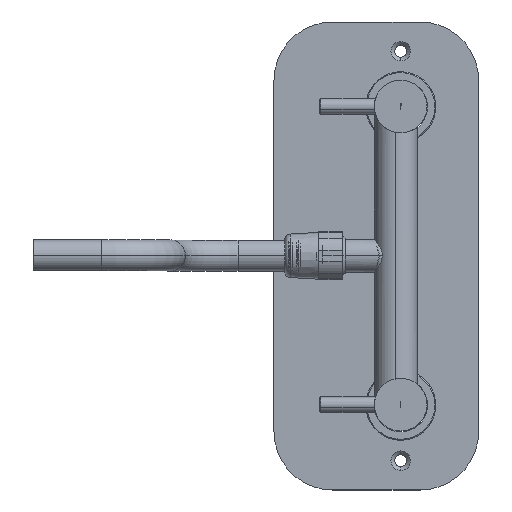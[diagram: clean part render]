
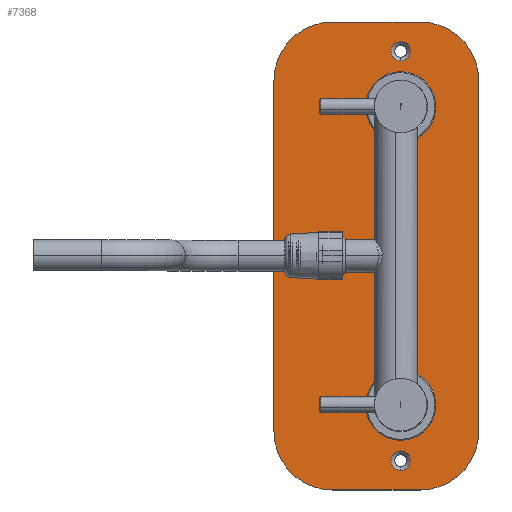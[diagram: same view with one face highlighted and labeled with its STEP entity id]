
A CAD part, top view. The second image highlights one B-rep face of the part: STEP entity #7368.
In plain terms, the highlighted planar face has unit normal (0, 0, 1) as drawn and (0, 1, 0) by its records, which use the part's own axes.
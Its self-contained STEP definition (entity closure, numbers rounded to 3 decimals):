
#70 = EDGE_LOOP ( 'NONE', ( #3534, #8732 ) ) ;
#141 = DIRECTION ( 'NONE',  ( 0., 0., -1. ) ) ;
#213 = EDGE_CURVE ( 'NONE', #11762, #12352, #17298, .T. ) ;
#392 = CARTESIAN_POINT ( 'NONE',  ( -12.5, 2., 110. ) ) ;
#562 = CARTESIAN_POINT ( 'NONE',  ( 22.5, 2., 120. ) ) ;
#578 = CARTESIAN_POINT ( 'NONE',  ( -22.5, 2., 90. ) ) ;
#670 = CARTESIAN_POINT ( 'NONE',  ( -12.5, 2., -76.5 ) ) ;
#686 = DIRECTION ( 'NONE',  ( 0., 0., 1. ) ) ;
#714 = VERTEX_POINT ( 'NONE', #10798 ) ;
#754 = FACE_OUTER_BOUND ( 'NONE', #8757, .T. ) ;
#954 = FACE_BOUND ( 'NONE', #16516, .T. ) ;
#978 = AXIS2_PLACEMENT_3D ( 'NONE', #8773, #17080, #8982 ) ;
#985 = CIRCLE ( 'NONE', #7481, 5. ) ;
#1075 = VERTEX_POINT ( 'NONE', #3399 ) ;
#1088 = DIRECTION ( 'NONE',  ( 0., 0., -1. ) ) ;
#1176 = VERTEX_POINT ( 'NONE', #6924 ) ;
#1765 = CARTESIAN_POINT ( 'NONE',  ( 22.5, 2., 90. ) ) ;
#1861 = CIRCLE ( 'NONE', #12730, 5. ) ;
#1994 = EDGE_CURVE ( 'NONE', #10448, #1075, #12902, .T. ) ;
#2167 = DIRECTION ( 'NONE',  ( 0., -1., 0. ) ) ;
#2533 = DIRECTION ( 'NONE',  ( 0., -1., 0. ) ) ;
#2656 = EDGE_CURVE ( 'NONE', #20148, #7032, #3041, .T. ) ;
#2900 = CARTESIAN_POINT ( 'NONE',  ( -22.5, 2., -90. ) ) ;
#3041 = CIRCLE ( 'NONE', #9512, 5. ) ;
#3136 = CARTESIAN_POINT ( 'NONE',  ( -52.5, 2., 90. ) ) ;
#3399 = CARTESIAN_POINT ( 'NONE',  ( -12.5, 2., 92.5 ) ) ;
#3528 = CIRCLE ( 'NONE', #6229, 30. ) ;
#3534 = ORIENTED_EDGE ( 'NONE', *, *, #8520, .T. ) ;
#3627 = VERTEX_POINT ( 'NONE', #8190 ) ;
#3719 = EDGE_CURVE ( 'NONE', #6322, #17928, #11045, .T. ) ;
#3857 = VECTOR ( 'NONE', #8930, 1000. ) ;
#4403 = CARTESIAN_POINT ( 'NONE',  ( -12.5, 2., 100. ) ) ;
#4794 = AXIS2_PLACEMENT_3D ( 'NONE', #8227, #14599, #686 ) ;
#5592 = DIRECTION ( 'NONE',  ( 0., 1., 0. ) ) ;
#5775 = LINE ( 'NONE', #6409, #13986 ) ;
#6126 = CARTESIAN_POINT ( 'NONE',  ( -12.5, 2., -60.5 ) ) ;
#6190 = EDGE_CURVE ( 'NONE', #13125, #3627, #18545, .T. ) ;
#6229 = AXIS2_PLACEMENT_3D ( 'NONE', #2900, #9721, #14311 ) ;
#6322 = VERTEX_POINT ( 'NONE', #3136 ) ;
#6349 = ORIENTED_EDGE ( 'NONE', *, *, #15936, .T. ) ;
#6409 = CARTESIAN_POINT ( 'NONE',  ( -52.5, 2., 120. ) ) ;
#6478 = ORIENTED_EDGE ( 'NONE', *, *, #2656, .T. ) ;
#6777 = EDGE_CURVE ( 'NONE', #12352, #7011, #19377, .T. ) ;
#6924 = CARTESIAN_POINT ( 'NONE',  ( -22.5, 2., -120. ) ) ;
#7011 = VERTEX_POINT ( 'NONE', #16032 ) ;
#7032 = VERTEX_POINT ( 'NONE', #4403 ) ;
#7115 = DIRECTION ( 'NONE',  ( 0., 0., -1. ) ) ;
#7251 = CIRCLE ( 'NONE', #12360, 16. ) ;
#7368 = ADVANCED_FACE ( 'NONE', ( #16877, #13888, #754, #954, #18893 ), #20380, .F. ) ;
#7481 = AXIS2_PLACEMENT_3D ( 'NONE', #17093, #12184, #18682 ) ;
#7543 = CARTESIAN_POINT ( 'NONE',  ( -52.5, 2., -120. ) ) ;
#8190 = CARTESIAN_POINT ( 'NONE',  ( -12.5, 2., -92.5 ) ) ;
#8227 = CARTESIAN_POINT ( 'NONE',  ( -12.5, 2., -76.5 ) ) ;
#8266 = CARTESIAN_POINT ( 'NONE',  ( -12.5, 2., -105. ) ) ;
#8313 = DIRECTION ( 'NONE',  ( 1., 0., 0. ) ) ;
#8520 = EDGE_CURVE ( 'NONE', #14619, #714, #11915, .T. ) ;
#8612 = ORIENTED_EDGE ( 'NONE', *, *, #6777, .T. ) ;
#8673 = DIRECTION ( 'NONE',  ( 0., 0., -1. ) ) ;
#8674 = DIRECTION ( 'NONE',  ( 0., 0., -1. ) ) ;
#8732 = ORIENTED_EDGE ( 'NONE', *, *, #10938, .T. ) ;
#8757 = EDGE_LOOP ( 'NONE', ( #9388, #12463, #17835, #8944, #19316, #6349, #14827, #8612 ) ) ;
#8773 = CARTESIAN_POINT ( 'NONE',  ( 0., 2., 0. ) ) ;
#8834 = ORIENTED_EDGE ( 'NONE', *, *, #17119, .T. ) ;
#8930 = DIRECTION ( 'NONE',  ( -1., 0., 0. ) ) ;
#8944 = ORIENTED_EDGE ( 'NONE', *, *, #3719, .T. ) ;
#8982 = DIRECTION ( 'NONE',  ( 0., 0., -1. ) ) ;
#9142 = VERTEX_POINT ( 'NONE', #20354 ) ;
#9157 = AXIS2_PLACEMENT_3D ( 'NONE', #15872, #20889, #12461 ) ;
#9223 = DIRECTION ( 'NONE',  ( 0., -1., 0. ) ) ;
#9388 = ORIENTED_EDGE ( 'NONE', *, *, #14206, .T. ) ;
#9469 = AXIS2_PLACEMENT_3D ( 'NONE', #670, #12094, #18594 ) ;
#9512 = AXIS2_PLACEMENT_3D ( 'NONE', #20416, #9223, #11032 ) ;
#9721 = DIRECTION ( 'NONE',  ( 0., 1., 0. ) ) ;
#10018 = EDGE_CURVE ( 'NONE', #1075, #10448, #7251, .T. ) ;
#10095 = EDGE_CURVE ( 'NONE', #1176, #9142, #3528, .T. ) ;
#10427 = CARTESIAN_POINT ( 'NONE',  ( -12.5, 2., -105. ) ) ;
#10448 = VERTEX_POINT ( 'NONE', #20268 ) ;
#10785 = DIRECTION ( 'NONE',  ( 0., 0., 1. ) ) ;
#10798 = CARTESIAN_POINT ( 'NONE',  ( -12.5, 2., -110. ) ) ;
#10938 = EDGE_CURVE ( 'NONE', #714, #14619, #1861, .T. ) ;
#11022 = CARTESIAN_POINT ( 'NONE',  ( 52.5, 2., 120. ) ) ;
#11032 = DIRECTION ( 'NONE',  ( 0., 0., -1. ) ) ;
#11045 = CIRCLE ( 'NONE', #18533, 30. ) ;
#11205 = DIRECTION ( 'NONE',  ( 0., 0., 1. ) ) ;
#11355 = CARTESIAN_POINT ( 'NONE',  ( 52.5, 2., 90. ) ) ;
#11762 = VERTEX_POINT ( 'NONE', #11355 ) ;
#11915 = CIRCLE ( 'NONE', #17003, 5. ) ;
#11955 = VECTOR ( 'NONE', #8313, 1000. ) ;
#11997 = EDGE_CURVE ( 'NONE', #9142, #6322, #5775, .T. ) ;
#12074 = CARTESIAN_POINT ( 'NONE',  ( 22.5, 2., -90. ) ) ;
#12094 = DIRECTION ( 'NONE',  ( 0., 1., 0. ) ) ;
#12184 = DIRECTION ( 'NONE',  ( 0., -1., 0. ) ) ;
#12276 = AXIS2_PLACEMENT_3D ( 'NONE', #1765, #14769, #141 ) ;
#12352 = VERTEX_POINT ( 'NONE', #13035 ) ;
#12360 = AXIS2_PLACEMENT_3D ( 'NONE', #13890, #20381, #10785 ) ;
#12439 = LINE ( 'NONE', #7543, #3857 ) ;
#12461 = DIRECTION ( 'NONE',  ( 0., 0., 1. ) ) ;
#12463 = ORIENTED_EDGE ( 'NONE', *, *, #10095, .T. ) ;
#12730 = AXIS2_PLACEMENT_3D ( 'NONE', #10427, #2533, #7115 ) ;
#12902 = CIRCLE ( 'NONE', #9157, 16. ) ;
#12991 = LINE ( 'NONE', #14577, #11955 ) ;
#13035 = CARTESIAN_POINT ( 'NONE',  ( 52.5, 2., -90. ) ) ;
#13125 = VERTEX_POINT ( 'NONE', #6126 ) ;
#13183 = CARTESIAN_POINT ( 'NONE',  ( -12.5, 2., -100. ) ) ;
#13194 = VERTEX_POINT ( 'NONE', #562 ) ;
#13262 = AXIS2_PLACEMENT_3D ( 'NONE', #12074, #18471, #8673 ) ;
#13494 = ORIENTED_EDGE ( 'NONE', *, *, #10018, .F. ) ;
#13888 = FACE_BOUND ( 'NONE', #18310, .T. ) ;
#13890 = CARTESIAN_POINT ( 'NONE',  ( -12.5, 2., 76.5 ) ) ;
#13986 = VECTOR ( 'NONE', #11205, 1000. ) ;
#14206 = EDGE_CURVE ( 'NONE', #7011, #1176, #12439, .T. ) ;
#14311 = DIRECTION ( 'NONE',  ( 0., 0., -1. ) ) ;
#14577 = CARTESIAN_POINT ( 'NONE',  ( -52.5, 2., 120. ) ) ;
#14599 = DIRECTION ( 'NONE',  ( 0., 1., 0. ) ) ;
#14619 = VERTEX_POINT ( 'NONE', #13183 ) ;
#14769 = DIRECTION ( 'NONE',  ( 0., 1., 0. ) ) ;
#14827 = ORIENTED_EDGE ( 'NONE', *, *, #213, .T. ) ;
#15705 = EDGE_LOOP ( 'NONE', ( #16825, #21062 ) ) ;
#15872 = CARTESIAN_POINT ( 'NONE',  ( -12.5, 2., 76.5 ) ) ;
#15936 = EDGE_CURVE ( 'NONE', #13194, #11762, #16024, .T. ) ;
#16024 = CIRCLE ( 'NONE', #12276, 30. ) ;
#16032 = CARTESIAN_POINT ( 'NONE',  ( 22.5, 2., -120. ) ) ;
#16174 = ORIENTED_EDGE ( 'NONE', *, *, #1994, .F. ) ;
#16516 = EDGE_LOOP ( 'NONE', ( #16174, #13494 ) ) ;
#16825 = ORIENTED_EDGE ( 'NONE', *, *, #18752, .F. ) ;
#16877 = FACE_BOUND ( 'NONE', #70, .T. ) ;
#17003 = AXIS2_PLACEMENT_3D ( 'NONE', #8266, #2167, #8674 ) ;
#17080 = DIRECTION ( 'NONE',  ( 0., -1., 0. ) ) ;
#17093 = CARTESIAN_POINT ( 'NONE',  ( -12.5, 2., 105. ) ) ;
#17119 = EDGE_CURVE ( 'NONE', #7032, #20148, #985, .T. ) ;
#17298 = LINE ( 'NONE', #11022, #20584 ) ;
#17835 = ORIENTED_EDGE ( 'NONE', *, *, #11997, .T. ) ;
#17928 = VERTEX_POINT ( 'NONE', #19687 ) ;
#18310 = EDGE_LOOP ( 'NONE', ( #6478, #8834 ) ) ;
#18471 = DIRECTION ( 'NONE',  ( 0., 1., 0. ) ) ;
#18533 = AXIS2_PLACEMENT_3D ( 'NONE', #578, #5592, #20315 ) ;
#18545 = CIRCLE ( 'NONE', #9469, 16. ) ;
#18594 = DIRECTION ( 'NONE',  ( 0., 0., 1. ) ) ;
#18682 = DIRECTION ( 'NONE',  ( 0., 0., -1. ) ) ;
#18752 = EDGE_CURVE ( 'NONE', #3627, #13125, #19116, .T. ) ;
#18893 = FACE_BOUND ( 'NONE', #15705, .T. ) ;
#19116 = CIRCLE ( 'NONE', #4794, 16. ) ;
#19316 = ORIENTED_EDGE ( 'NONE', *, *, #20117, .T. ) ;
#19377 = CIRCLE ( 'NONE', #13262, 30. ) ;
#19687 = CARTESIAN_POINT ( 'NONE',  ( -22.5, 2., 120. ) ) ;
#20117 = EDGE_CURVE ( 'NONE', #17928, #13194, #12991, .T. ) ;
#20148 = VERTEX_POINT ( 'NONE', #392 ) ;
#20268 = CARTESIAN_POINT ( 'NONE',  ( -12.5, 2., 60.5 ) ) ;
#20315 = DIRECTION ( 'NONE',  ( 0., 0., -1. ) ) ;
#20354 = CARTESIAN_POINT ( 'NONE',  ( -52.5, 2., -90. ) ) ;
#20380 = PLANE ( 'NONE',  #978 ) ;
#20381 = DIRECTION ( 'NONE',  ( 0., 1., 0. ) ) ;
#20416 = CARTESIAN_POINT ( 'NONE',  ( -12.5, 2., 105. ) ) ;
#20584 = VECTOR ( 'NONE', #1088, 1000. ) ;
#20889 = DIRECTION ( 'NONE',  ( 0., 1., 0. ) ) ;
#21062 = ORIENTED_EDGE ( 'NONE', *, *, #6190, .F. ) ;
